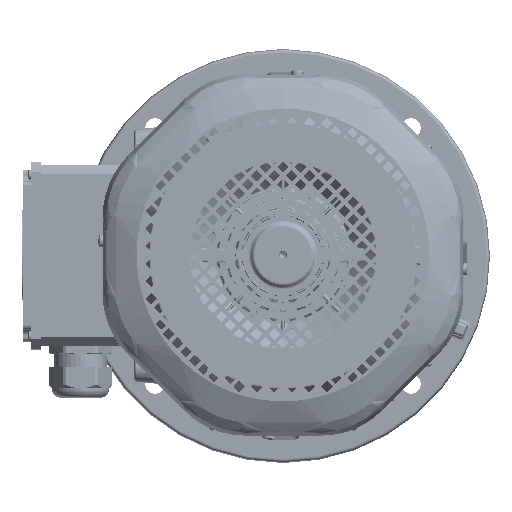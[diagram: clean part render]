
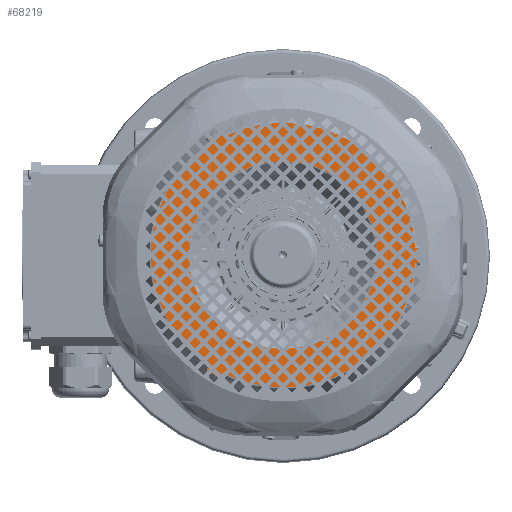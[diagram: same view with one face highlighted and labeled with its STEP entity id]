
A CAD part, top view. The second image highlights one B-rep face of the part: STEP entity #68219.
In plain terms, the highlighted planar face has unit normal (0, 0, 1).
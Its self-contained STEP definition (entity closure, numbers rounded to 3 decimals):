
#40215=LINE('',#435216,#52834);
#40222=LINE('',#435532,#52841);
#40223=LINE('',#435573,#52842);
#40226=LINE('',#435675,#52845);
#40232=LINE('',#436340,#52851);
#40233=LINE('',#436381,#52852);
#40236=LINE('',#436483,#52855);
#40237=LINE('',#437062,#52856);
#40238=LINE('',#437064,#52857);
#52834=VECTOR('',#289535,1.);
#52841=VECTOR('',#289572,1.);
#52842=VECTOR('',#289579,1.);
#52845=VECTOR('',#289594,1.);
#52851=VECTOR('',#289634,1.);
#52852=VECTOR('',#289641,1.);
#52855=VECTOR('',#289656,1.);
#52856=VECTOR('',#289675,1.);
#52857=VECTOR('',#289676,1.);
#57443=PLANE('',#239430);
#68219=ADVANCED_FACE('',(#77686,#77687),#57443,.T.);
#77686=FACE_BOUND('',#89757,.T.);
#77687=FACE_BOUND('',#89758,.T.);
#89757=EDGE_LOOP('',(#143660));
#89758=EDGE_LOOP('',(#143661,#143662,#143663,#143664,#143665,#143666,#143667,
#143668,#143669,#143670,#143671,#143672,#143673));
#143660=ORIENTED_EDGE('',*,*,#203697,.T.);
#143661=ORIENTED_EDGE('',*,*,#203839,.T.);
#143662=ORIENTED_EDGE('',*,*,#203840,.T.);
#143663=ORIENTED_EDGE('',*,*,#203835,.T.);
#143664=ORIENTED_EDGE('',*,*,#203796,.T.);
#143665=ORIENTED_EDGE('',*,*,#203802,.T.);
#143666=ORIENTED_EDGE('',*,*,#203815,.T.);
#143667=ORIENTED_EDGE('',*,*,#203781,.T.);
#143668=ORIENTED_EDGE('',*,*,#203780,.T.);
#143669=ORIENTED_EDGE('',*,*,#203738,.T.);
#143670=ORIENTED_EDGE('',*,*,#203744,.T.);
#143671=ORIENTED_EDGE('',*,*,#203757,.T.);
#143672=ORIENTED_EDGE('',*,*,#203723,.T.);
#143673=ORIENTED_EDGE('',*,*,#203705,.T.);
#174373=VERTEX_POINT('',#435148);
#174379=VERTEX_POINT('',#435190);
#174380=VERTEX_POINT('',#435215);
#174391=VERTEX_POINT('',#435407);
#174402=VERTEX_POINT('',#435531);
#174403=VERTEX_POINT('',#435533);
#174406=VERTEX_POINT('',#435571);
#174424=VERTEX_POINT('',#436213);
#174425=VERTEX_POINT('',#436215);
#174436=VERTEX_POINT('',#436339);
#174437=VERTEX_POINT('',#436341);
#174440=VERTEX_POINT('',#436379);
#174455=VERTEX_POINT('',#437004);
#174458=VERTEX_POINT('',#437063);
#203697=EDGE_CURVE('',#174373,#174373,#218881,.T.);
#203705=EDGE_CURVE('',#174379,#174380,#40215,.T.);
#203723=EDGE_CURVE('',#174391,#174379,#218890,.T.);
#203738=EDGE_CURVE('',#174403,#174402,#40222,.T.);
#203744=EDGE_CURVE('',#174402,#174406,#40223,.T.);
#203757=EDGE_CURVE('',#174406,#174391,#40226,.T.);
#203780=EDGE_CURVE('',#174424,#174403,#218907,.T.);
#203781=EDGE_CURVE('',#174425,#174424,#218908,.T.);
#203796=EDGE_CURVE('',#174437,#174436,#40232,.T.);
#203802=EDGE_CURVE('',#174436,#174440,#40233,.T.);
#203815=EDGE_CURVE('',#174440,#174425,#40236,.T.);
#203835=EDGE_CURVE('',#174455,#174437,#218923,.T.);
#203839=EDGE_CURVE('',#174380,#174458,#40237,.T.);
#203840=EDGE_CURVE('',#174458,#174455,#40238,.T.);
#218881=CIRCLE('',#239367,90.828);
#218890=CIRCLE('',#239379,127.845);
#218907=CIRCLE('',#239404,127.845);
#218908=CIRCLE('',#239405,127.845);
#218923=CIRCLE('',#239428,127.845);
#239367=AXIS2_PLACEMENT_3D('',#435147,#289525,#289526);
#239379=AXIS2_PLACEMENT_3D('',#435406,#289553,#289554);
#239404=AXIS2_PLACEMENT_3D('',#436212,#289613,#289614);
#239405=AXIS2_PLACEMENT_3D('',#436214,#289615,#289616);
#239428=AXIS2_PLACEMENT_3D('',#437003,#289671,#289672);
#239430=AXIS2_PLACEMENT_3D('',#437065,#289677,#289678);
#289525=DIRECTION('',(0.,0.,-1.));
#289526=DIRECTION('',(0.,1.,0.));
#289535=DIRECTION('',(-0.5,-0.866,0.));
#289553=DIRECTION('',(0.,0.,1.));
#289554=DIRECTION('',(-0.544,0.839,0.));
#289572=DIRECTION('',(-0.5,0.866,0.));
#289579=DIRECTION('',(-0.866,-0.5,0.));
#289594=DIRECTION('',(0.5,-0.866,0.));
#289613=DIRECTION('',(0.,0.,1.));
#289614=DIRECTION('',(0.,1.,0.));
#289615=DIRECTION('',(0.,0.,1.));
#289616=DIRECTION('',(0.999,0.051,0.));
#289634=DIRECTION('',(1.,0.,0.));
#289641=DIRECTION('',(0.,1.,0.));
#289656=DIRECTION('',(-1.,0.,0.));
#289671=DIRECTION('',(0.,0.,1.));
#289672=DIRECTION('',(-0.455,-0.89,0.));
#289675=DIRECTION('',(0.866,-0.5,0.));
#289676=DIRECTION('',(0.5,0.866,0.));
#289677=DIRECTION('',(0.,0.,1.));
#289678=DIRECTION('',(1.,0.,0.));
#435147=CARTESIAN_POINT('',(0.,0.,
460.));
#435148=CARTESIAN_POINT('',(0.,90.828,460.));
#435190=CARTESIAN_POINT('',(-70.354,-106.746,460.));
#435215=CARTESIAN_POINT('',(-73.043,-111.403,460.));
#435216=CARTESIAN_POINT('',(-70.354,-106.746,460.));
#435406=CARTESIAN_POINT('',(0.,0.,460.));
#435407=CARTESIAN_POINT('',(-69.508,107.299,460.));
#435531=CARTESIAN_POINT('',(-59.956,118.958,460.));
#435532=CARTESIAN_POINT('',(-57.267,114.302,460.));
#435533=CARTESIAN_POINT('',(-57.267,114.302,460.));
#435571=CARTESIAN_POINT('',(-72.169,111.907,460.));
#435573=CARTESIAN_POINT('',(-59.956,118.958,460.));
#435675=CARTESIAN_POINT('',(-72.169,111.907,460.));
#436212=CARTESIAN_POINT('',(0.,0.,460.));
#436213=CARTESIAN_POINT('',(0.,127.845,460.));
#436214=CARTESIAN_POINT('',(0.,0.,460.));
#436215=CARTESIAN_POINT('',(127.678,6.546,460.));
#436339=CARTESIAN_POINT('',(132.999,-7.556,460.));
#436340=CARTESIAN_POINT('',(127.622,-7.556,460.));
#436341=CARTESIAN_POINT('',(127.622,-7.556,460.));
#436379=CARTESIAN_POINT('',(132.999,6.546,460.));
#436381=CARTESIAN_POINT('',(132.999,-7.556,460.));
#436483=CARTESIAN_POINT('',(132.999,6.546,460.));
#437003=CARTESIAN_POINT('',(0.,0.,460.));
#437004=CARTESIAN_POINT('',(-58.17,-113.845,460.));
#437062=CARTESIAN_POINT('',(-73.043,-111.403,460.));
#437063=CARTESIAN_POINT('',(-60.83,-118.454,460.));
#437064=CARTESIAN_POINT('',(-60.83,-118.454,460.));
#437065=CARTESIAN_POINT('',(-140.83,-140.83,460.));
